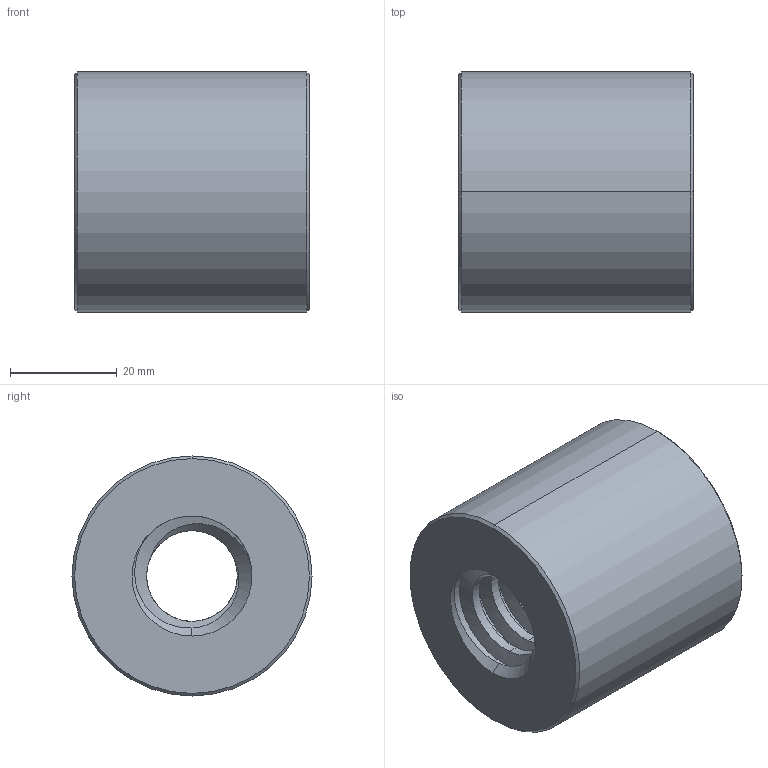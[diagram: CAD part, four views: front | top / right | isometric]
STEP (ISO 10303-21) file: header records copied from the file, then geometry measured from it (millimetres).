
FILE_DESCRIPTION((''),'2;1');
FILE_NAME('716-022-6000_PRT','2024-03-23T',('Brieden'),('ib-brieden'),'PRO/ENGINEER BY PARAMETRIC TECHNOLOGY CORPORATION, 2010160','PRO/ENGINEER BY PARAMETRIC TECHNOLOGY CORPORATION, 2010160','');
FILE_SCHEMA(('AUTOMOTIVE_DESIGN { 1 0 10303 214 1 1 1 1 }'));
Length unit declared in the file: millimetre
Products named in the file (1): 716-022-6000_PRT
Bounding box: 44 x 45 x 45 mm (x, y, z)
Volume: 56147.8 mm3; surface area: 13514.2 mm2
Topology: 1 solids, 1 shells, 37 faces, 93 edges, 58 vertices
Faces by surface type: cylinder 18, bspline 9, cone 8, plane 2
Entity records: 4339 total; most frequent: CARTESIAN_POINT 3503, ORIENTED_EDGE 186, DIRECTION 115, EDGE_CURVE 93, VERTEX_POINT 58, B_SPLINE_CURVE_WITH_KNOTS 49, AXIS2_PLACEMENT_3D 43, EDGE_LOOP 39
